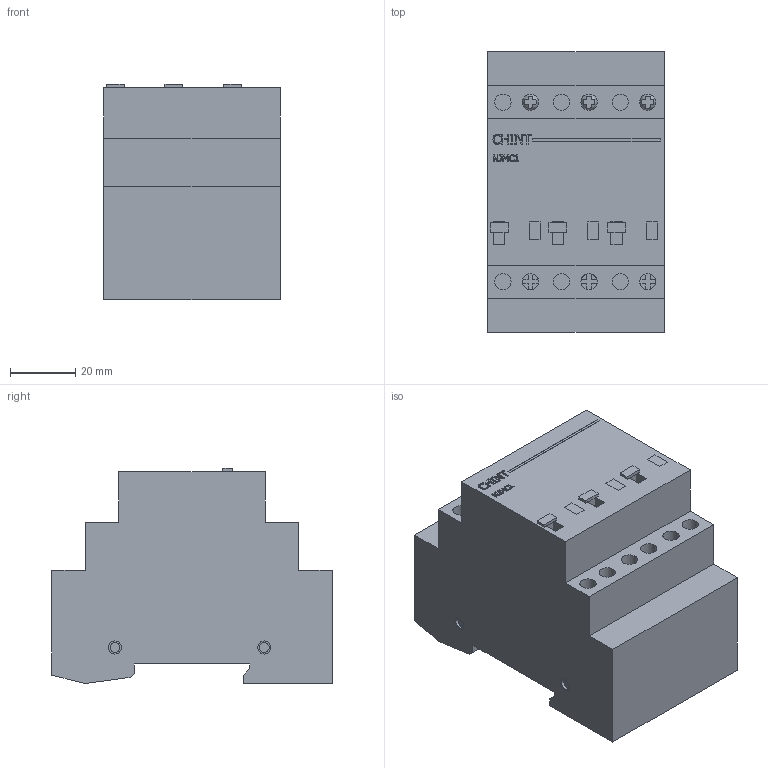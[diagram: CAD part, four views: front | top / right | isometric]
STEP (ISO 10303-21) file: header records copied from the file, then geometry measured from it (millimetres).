
FILE_DESCRIPTION(/* description */ (''),/* implementation_level */ '2;1');
FILE_NAME(/* name */ 'D:\CHINT\NJMC1\Импульсное реле NJMC1 3P (CHINT).stp',/* time_stamp */ '2017-09-30T15:36:27+04:00',/* author */ ('RSagdiev'),/* organization */ (''),/* preprocessor_version */ 'ST-DEVELOPER v16.5',/* originating_system */ 'Autodesk Inventor 2017',/* authorisation */ '');
FILE_SCHEMA (('AUTOMOTIVE_DESIGN { 1 0 10303 214 3 1 1 }'));
Length unit declared in the file: millimetre
Products named in the file (1): Импульсное \X2\0440
0435043B0435\X0\ NJMC1 3P (CHINT)
Bounding box: 54 x 86 x 66 mm (x, y, z)
Surface area: 57648.8 mm2
Topology: 29 solids, 37 shells, 526 faces, 1202 edges, 813 vertices
Faces by surface type: plane 409, cylinder 73, bspline 44
Full cylindrical faces by diameter (mm): 3 x12, 4 x28, 5 x33
Entity records: 14882 total; most frequent: CARTESIAN_POINT 3358, ORIENTED_EDGE 2236, DIRECTION 2180, EDGE_CURVE 1118, LINE 826, VECTOR 826, VERTEX_POINT 794, EDGE_LOOP 678
